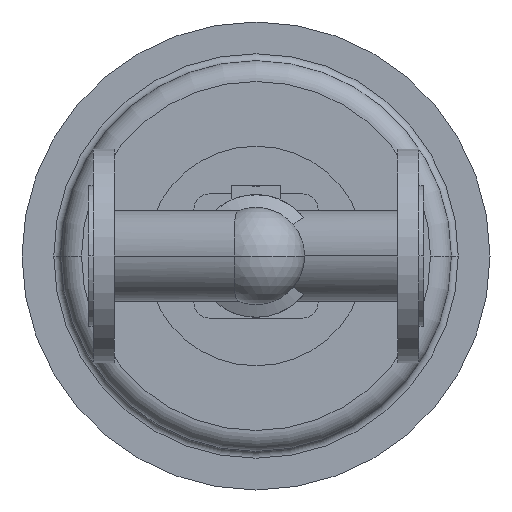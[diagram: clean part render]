
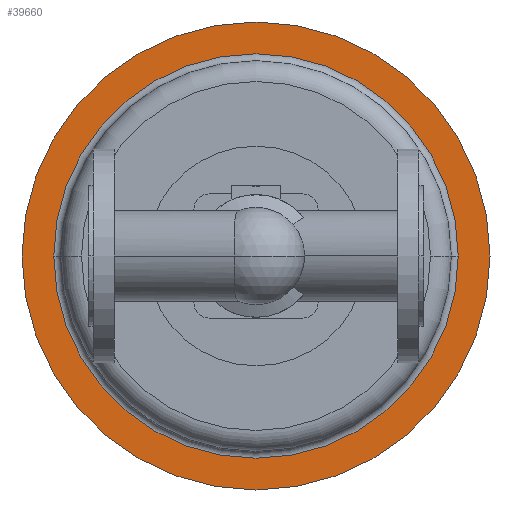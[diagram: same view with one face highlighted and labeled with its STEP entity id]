
A CAD part, front view. The second image highlights one B-rep face of the part: STEP entity #39660.
In plain terms, the highlighted planar face has unit normal (0, -1, 0).
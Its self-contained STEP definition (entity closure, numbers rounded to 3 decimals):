
#33520=CARTESIAN_POINT('',(347.5,542.,0.));
#33530=VERTEX_POINT('',#33520);
#33690=CARTESIAN_POINT('',(-57.5,542.,0.));
#33700=VERTEX_POINT('',#33690);
#33730=CARTESIAN_POINT('',(145.,542.,0.));
#33740=DIRECTION('',(0.,1.,0.));
#33750=DIRECTION('',(1.,0.,0.));
#33760=AXIS2_PLACEMENT_3D('',#33730,#33740,#33750);
#33770=CIRCLE('',#33760,202.5);
#33780=EDGE_CURVE('',#33530,#33700,#33770,.T.);
#33950=CARTESIAN_POINT('',(320.,542.,0.));
#33960=VERTEX_POINT('',#33950);
#33990=CARTESIAN_POINT('',(145.,542.,0.));
#34000=DIRECTION('',(0.,1.,0.));
#34010=DIRECTION('',(1.,0.,0.));
#34020=AXIS2_PLACEMENT_3D('',#33990,#34000,#34010);
#34030=CIRCLE('',#34020,175.);
#34040=CARTESIAN_POINT('',(145.,542.,-175.));
#34050=VERTEX_POINT('',#34040);
#34060=EDGE_CURVE('',#33960,#34050,#34030,.T.);
#34080=CARTESIAN_POINT('',(-30.,542.,0.));
#34090=VERTEX_POINT('',#34080);
#34100=EDGE_CURVE('',#34050,#34090,#34030,.T.);
#39500=CARTESIAN_POINT('',(333.75,542.,0.));
#39510=DIRECTION('',(0.,-1.,0.));
#39520=DIRECTION('',(-1.,0.,0.));
#39530=AXIS2_PLACEMENT_3D('',#39500,#39510,#39520);
#39540=PLANE('',#39530);
#39550=EDGE_CURVE('',#33700,#33530,#33770,.T.);
#39560=ORIENTED_EDGE('',*,*,#39550,.F.);
#39570=ORIENTED_EDGE('',*,*,#33780,.F.);
#39580=EDGE_LOOP('',(#39570,#39560));
#39590=FACE_OUTER_BOUND('',#39580,.T.);
#39600=EDGE_CURVE('',#34090,#33960,#34030,.T.);
#39610=ORIENTED_EDGE('',*,*,#39600,.T.);
#39620=ORIENTED_EDGE('',*,*,#34100,.T.);
#39630=ORIENTED_EDGE('',*,*,#34060,.T.);
#39640=EDGE_LOOP('',(#39630,#39620,#39610));
#39650=FACE_BOUND('',#39640,.T.);
#39660=ADVANCED_FACE('',(#39590,#39650),#39540,.T.);
